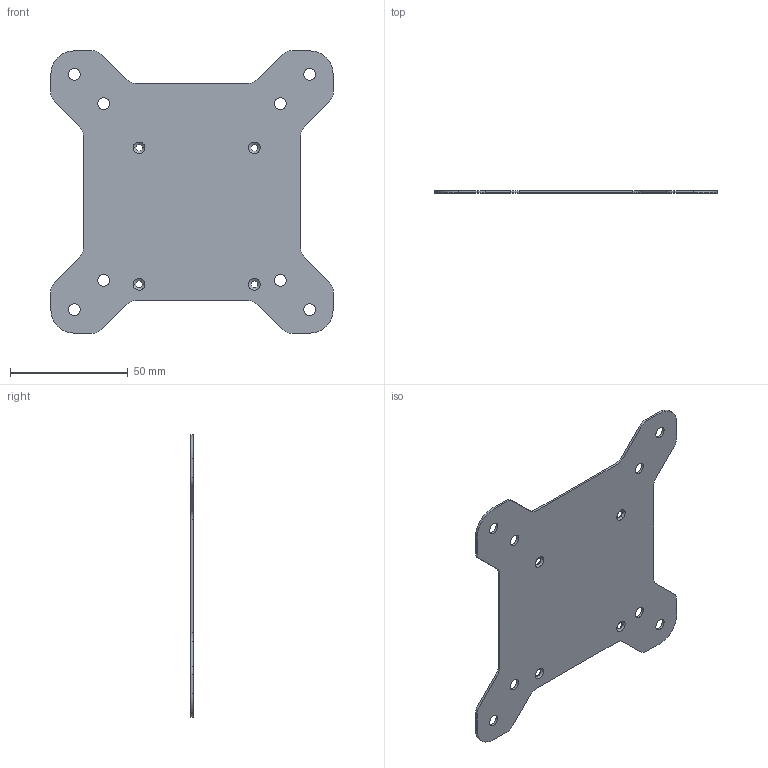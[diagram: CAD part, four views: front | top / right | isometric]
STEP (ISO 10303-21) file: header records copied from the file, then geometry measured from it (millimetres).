
FILE_DESCRIPTION((''),'2;1');
FILE_NAME('VESA-BKT-APL03','2023-03-08T',('WillyChen'),(''),'PRO/ENGINEER BY PARAMETRIC TECHNOLOGY CORPORATION, 2016010','PRO/ENGINEER BY PARAMETRIC TECHNOLOGY CORPORATION, 2016010','');
FILE_SCHEMA(('CONFIG_CONTROL_DESIGN'));
Length unit declared in the file: millimetre
Products named in the file (1): VESA-BKT-APL03
Bounding box: 120 x 1 x 120 mm (x, y, z)
Volume: 10468.9 mm3; surface area: 21623.1 mm2
Topology: 1 solids, 1 shells, 74 faces, 208 edges, 136 vertices
Faces by surface type: cylinder 44, plane 22, cone 8
Entity records: 2510 total; most frequent: DIRECTION 452, CARTESIAN_POINT 418, ORIENTED_EDGE 416, EDGE_CURVE 208, AXIS2_PLACEMENT_3D 170, VERTEX_POINT 136, VECTOR 112, LINE 112
